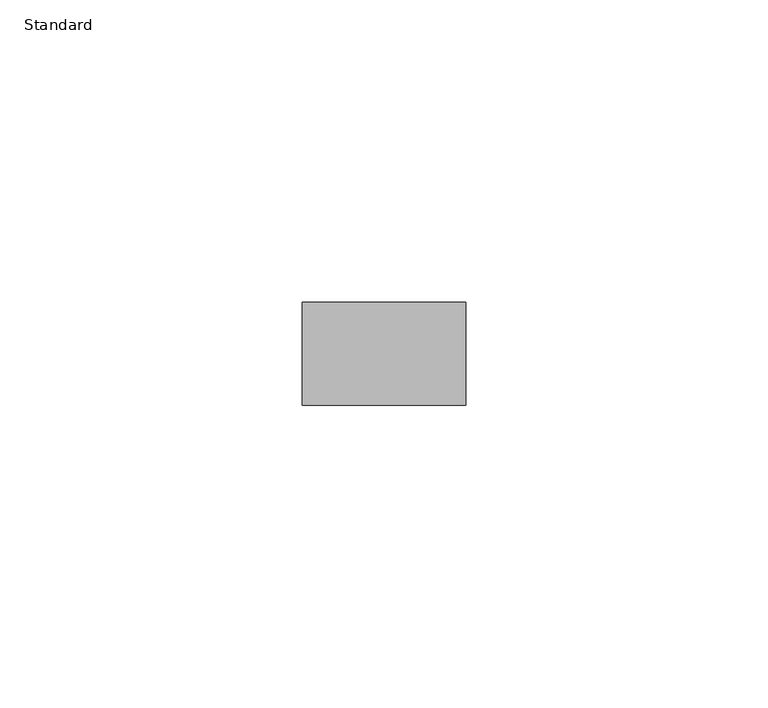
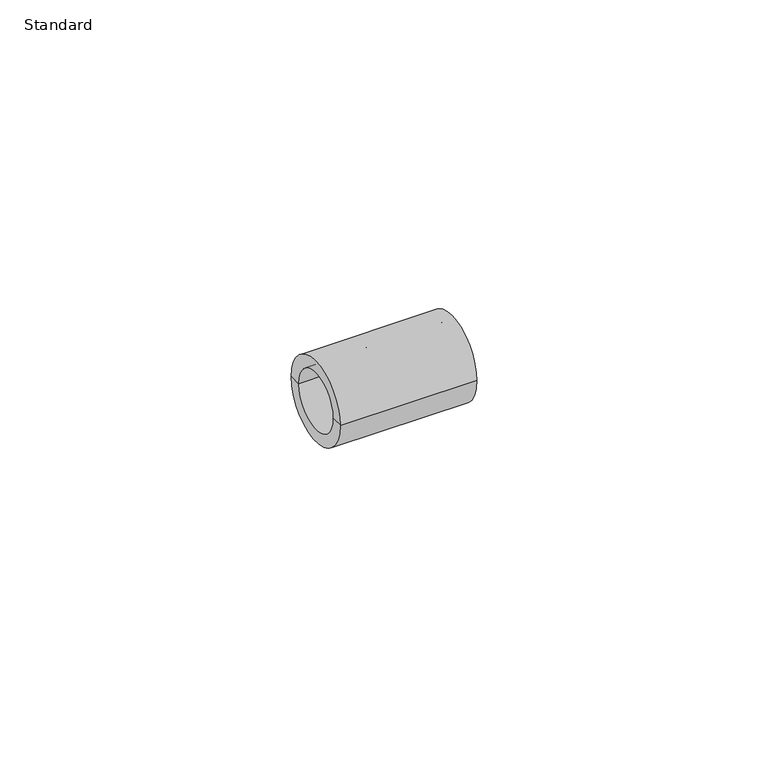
"""IFC4 building model written with IfcOpenShell, lengths in millimetres: pipe fitting geometry, Durapipe_PipeFitting_PVC_Socket : Standard."""

from ifc_helpers import new_model, si_unit, frame, origin, place, context, project, spatial, polyline, circle_curve, source, transform, mapped, element, save
from ifc_brep_helpers import plane_surface, cylinder_surface, revolved_surface, advanced_brep


def standard_a297ac4e(model_context):
    return source(origin(), model_context, "Body", "AdvancedBrep", [
        advanced_brep(
        [(-13.5, -8.5, 0.0), (-13.5, 8.5, 0.0), (13.5, 8.5, 0.0), (13.5, -8.5, 0.0), (-13.5, -6.0, 0.0), (-13.5, 6.0, 0.0), (1.5, -3.0, 0.0), (1.5, 3.0, 0.0), (-1.5, 3.0, 0.0), (-1.5, -3.0, 0.0), (13.5, 6.0, 0.0), (13.5, -6.0, 0.0), (-1.5, -6.0, 0.0), (-1.5, 6.0, 0.0), (1.5, -6.0, 0.0), (1.5, 6.0, 0.0)],
        [
            (0, 1, circle_curve(frame((-13.5, 0.0, 0.0), z_axis=(1.0, 0.0, 0.0), x_axis=(0.0, 1.0, 0.0)), 8.5)),
            (1, 2),
            (2, 3, circle_curve(frame((13.5, 0.0, 0.0), z_axis=(-1.0, 0.0, 0.0), x_axis=(0.0, 1.0, 0.0)), 8.5)),
            (3, 0),
            (1, 0, circle_curve(frame((-13.5, 0.0, 0.0), z_axis=(1.0, 0.0, 0.0), x_axis=(0.0, 1.0, 0.0)), 8.5)),
            (3, 2, circle_curve(frame((13.5, 0.0, 0.0), z_axis=(-1.0, 0.0, 0.0), x_axis=(0.0, 1.0, 0.0)), 8.5)),
            (4, 5, circle_curve(frame((-13.5, 0.0, 0.0), z_axis=(1.0, 0.0, 0.0), x_axis=(0.0, 1.0, 0.0)), 6.0)),
            (5, 1),
            (0, 4),
            (5, 4, circle_curve(frame((-13.5, 0.0, 0.0), z_axis=(1.0, 0.0, 0.0), x_axis=(0.0, 1.0, 0.0)), 6.0)),
            (6, 7, circle_curve(frame((1.5, 0.0, 0.0), z_axis=(1.0, 0.0, 0.0), x_axis=(0.0, 1.0, 0.0)), 3.0)),
            (7, 8),
            (8, 9, circle_curve(frame((-1.5, 0.0, 0.0), z_axis=(-1.0, 0.0, 0.0), x_axis=(0.0, 1.0, 0.0)), 3.0)),
            (9, 6),
            (7, 6, circle_curve(frame((1.5, 0.0, 0.0), z_axis=(1.0, 0.0, 0.0), x_axis=(0.0, 1.0, 0.0)), 3.0)),
            (9, 8, circle_curve(frame((-1.5, 0.0, 0.0), z_axis=(-1.0, 0.0, 0.0), x_axis=(0.0, 1.0, 0.0)), 3.0)),
            (2, 10),
            (10, 11, circle_curve(frame((13.5, 0.0, 0.0), z_axis=(-1.0, 0.0, 0.0), x_axis=(0.0, 1.0, 0.0)), 6.0)),
            (11, 3),
            (11, 10, circle_curve(frame((13.5, 0.0, 0.0), z_axis=(-1.0, 0.0, 0.0), x_axis=(0.0, 1.0, 0.0)), 6.0)),
            (12, 13, circle_curve(frame((-1.5, 0.0, 0.0), z_axis=(1.0, 0.0, 0.0), x_axis=(0.0, 1.0, 0.0)), 6.0)),
            (13, 5),
            (4, 12),
            (13, 12, circle_curve(frame((-1.5, 0.0, 0.0), z_axis=(1.0, 0.0, 0.0), x_axis=(0.0, 1.0, 0.0)), 6.0)),
            (8, 13),
            (12, 9),
            (14, 15, circle_curve(frame((1.5, 0.0, 0.0), z_axis=(1.0, 0.0, 0.0), x_axis=(0.0, 1.0, 0.0)), 6.0)),
            (15, 7),
            (6, 14),
            (15, 14, circle_curve(frame((1.5, 0.0, 0.0), z_axis=(1.0, 0.0, 0.0), x_axis=(0.0, 1.0, 0.0)), 6.0)),
            (10, 15),
            (14, 11),
        ],
        [
            cylinder_surface(frame((-13.5, 0.0, 0.0), z_axis=(-1.0, 0.0, 0.0), x_axis=(0.0, 1.0, 0.0)), 8.5),
            plane_surface(frame((-13.5, 0.0, 0.0), z_axis=(-1.0, 0.0, 0.0), x_axis=(0.0, 1.0, 0.0))),
            revolved_surface(polyline([(-1.5, 3.0, 0.0), (1.5, 3.0, 0.0)]), (-13.5, 0.0, 0.0), (-1.0, 0.0, 0.0)),
            plane_surface(frame((13.5, 0.0, 0.0), z_axis=(1.0, 0.0, 0.0), x_axis=(0.0, 1.0, 0.0))),
            revolved_surface(polyline([(-13.5, 6.0, 0.0), (-1.5, 6.0, 0.0)]), (-13.5, 0.0, 0.0), (-1.0, 0.0, 0.0)),
            plane_surface(frame((-1.5, 0.0, 0.0), z_axis=(-1.0, 0.0, 0.0), x_axis=(0.0, 1.0, 0.0))),
            plane_surface(frame((1.5, 0.0, 0.0), z_axis=(1.0, 0.0, 0.0), x_axis=(0.0, 1.0, 0.0))),
            revolved_surface(polyline([(1.5, 6.0, 0.0), (13.5, 6.0, 0.0)]), (-13.5, 0.0, 0.0), (-1.0, 0.0, 0.0)),
        ],
        [
            (0, [[1, 2, 3, 4]]),
            (0, [[5, -4, 6, -2]]),
            (1, [[7, 8, -1, 9]]),
            (1, [[10, -9, -5, -8]]),
            (2, [[11, 12, 13, 14]]),
            (2, [[15, -14, 16, -12]]),
            (3, [[-3, 17, 18, 19]]),
            (3, [[-6, -19, 20, -17]]),
            (4, [[21, 22, -7, 23]]),
            (4, [[24, -23, -10, -22]]),
            (5, [[-13, 25, -21, 26]]),
            (5, [[-16, -26, -24, -25]]),
            (6, [[27, 28, -11, 29]]),
            (6, [[30, -29, -15, -28]]),
            (7, [[-18, 31, -27, 32]]),
            (7, [[-20, -32, -30, -31]]),
        ],
    ),
    ])


if __name__ == "__main__":
    model = new_model("IFC4")
    model_context = context("Model", 3, world=origin())
    ifc_project = project(units=[si_unit("LENGTHUNIT", "METRE", prefix="MILLI")], contexts=[model_context])
    site = spatial("IfcSite", under=ifc_project)
    building = spatial("IfcBuilding", under=site)
    placement = place(None, origin())
    standard_shape = standard_a297ac4e(model_context)
    element("IfcPipeFitting", 1, ObjectType="Durapipe_PipeFitting_PVC_Socket : Standard", at=placement, inside=building, context=model_context, shape_type="MappedRepresentation", body=[
        mapped(standard_shape, transform((0.0, 0.0, 0.0), x_axis=(1.0, 0.0, 0.0), y_axis=(0.0, 1.0, 0.0), z_axis=(0.0, 0.0, 1.0))),
    ])
    save(model, "model.ifc")
